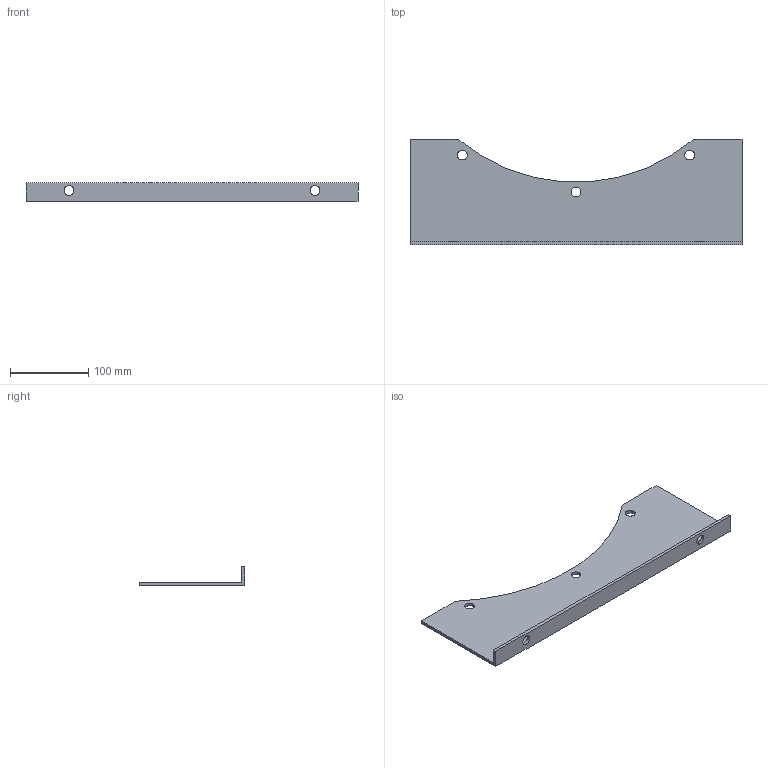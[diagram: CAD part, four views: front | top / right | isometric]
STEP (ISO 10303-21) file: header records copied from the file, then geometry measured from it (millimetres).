
FILE_DESCRIPTION(('STEP AP214'),'1');
FILE_NAME('accessory_5138804900.stp','2017-10-09T07:39:06',('TraceParts'),('TraceParts S.A.'),'Spatial InterOp 3D',' ',' ');
FILE_SCHEMA(('automotive_design'));
Length unit declared in the file: millimetre
Products named in the file (1): accessory_5138804900
Bounding box: 425 x 135 x 24 mm (x, y, z)
Volume: 215575.6 mm3; surface area: 113317.3 mm2
Topology: 1 solids, 1 shells, 20 faces, 54 edges, 36 vertices
Faces by surface type: cylinder 11, plane 9
Entity records: 836 total; most frequent: DIRECTION 118, CARTESIAN_POINT 111, ORIENTED_EDGE 108, EDGE_CURVE 54, AXIS2_PLACEMENT_3D 43, VERTEX_POINT 36, LINE 32, VECTOR 32
